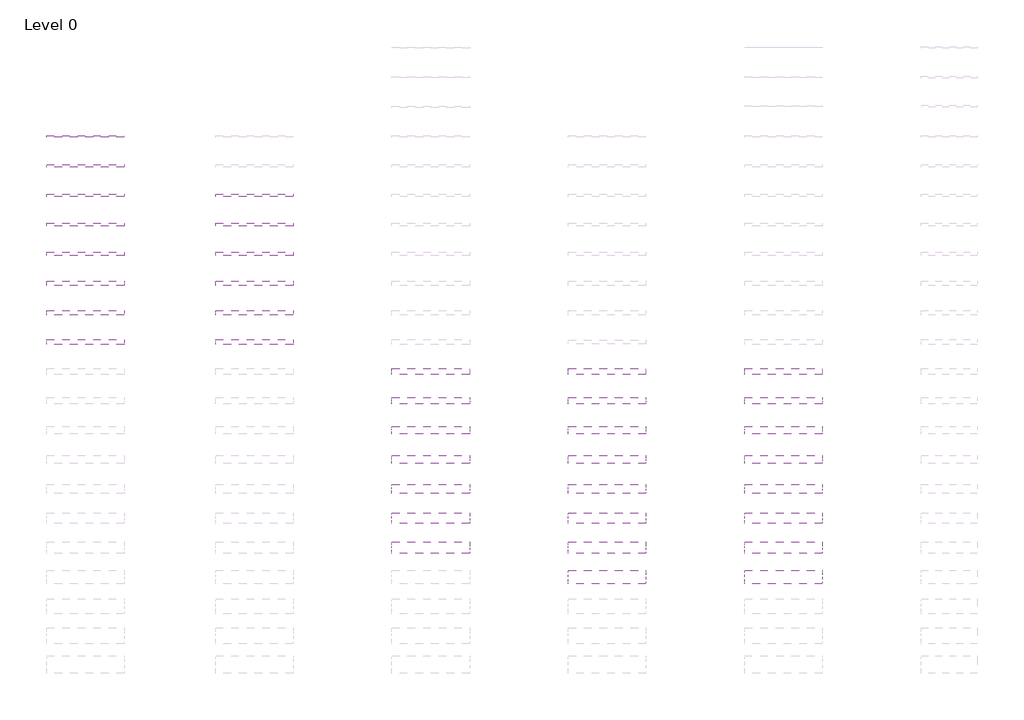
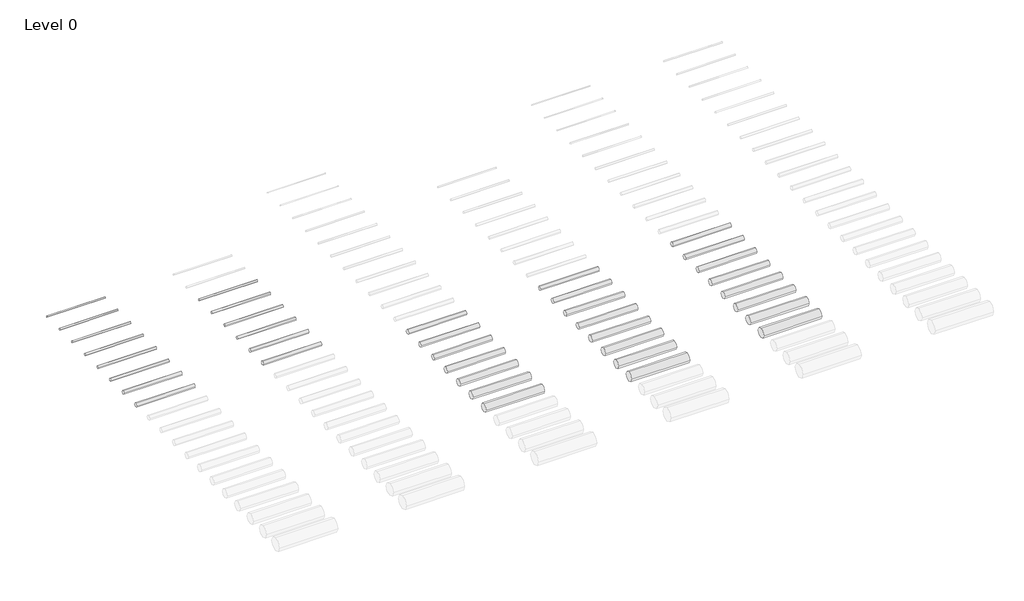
# One storey, part 2 of 4: 37 pipe segments.
"""IFC4 building model written with IfcOpenShell, lengths in millimetres."""

from ifc_helpers import new_model, si_unit, point, frame, frame_2d, origin, place, context, project, spatial, circle_curve, trimmed, segment, composite_curve, outline, extrude, element, save

model = new_model("IFC4")

# Units and contexts
model_context = context("Model", 3, world=origin())
ifc_project = project(units=[si_unit("LENGTHUNIT", "METRE", prefix="MILLI")], contexts=[model_context])

# Site, building, storey
site = spatial("IfcSite", under=ifc_project)
building = spatial("IfcBuilding", under=site)
storey = spatial("IfcBuildingStorey", under=building, Name="Level 0", Elevation=0.0)

# Pipe segments
placement = place(None, origin())
element("IfcPipeSegment", 1, ObjectType="Plumbing_Pipes_Pexgol_Cross-Linked-Polyethylene_Class-10", at=placement, inside=storey, context=model_context, shape_type="SweptSolid", body=[
    extrude(outline(composite_curve([segment(trimmed(circle_curve(frame_2d((-8091.7457436, 2750.0)), 31.5), [point((-8123.2457436, 2750.0))], [point((-8091.7457436, 2781.5))], False, "CARTESIAN"), True, "CONTINUOUS"), segment(trimmed(circle_curve(frame_2d((-8091.7457436, 2750.0)), 31.5), [point((-8091.7457436, 2781.5))], [point((-8060.2457436, 2750.0))], False, "CARTESIAN"), True, "CONTINUOUS"), segment(trimmed(circle_curve(frame_2d((-8091.7457436, 2750.0)), 31.5), [point((-8060.2457436, 2750.0))], [point((-8091.7457436, 2718.5))], False, "CARTESIAN"), True, "CONTINUOUS"), segment(trimmed(circle_curve(frame_2d((-8091.7457436, 2750.0)), 31.5), [point((-8091.7457436, 2718.5))], [point((-8123.2457436, 2750.0))], False, "CARTESIAN"), True, "CONTINUOUS")], self_intersect=False)), frame((5406.3346274, 0.0, 0.0), z_axis=(1.0, 0.0, 0.0), x_axis=(0.0, 1.0, 0.0)), (0.0, 0.0, 1.0), 2640.0),
])
element("IfcPipeSegment", 2, ObjectType="Plumbing_Pipes_Pexgol_Cross-Linked-Polyethylene_Class-10", at=placement, inside=storey, context=model_context, shape_type="SweptSolid", body=[
    extrude(outline(composite_curve([segment(trimmed(circle_curve(frame_2d((-9091.7457436, 2750.0)), 37.5), [point((-9129.2457436, 2750.0))], [point((-9091.7457436, 2787.5))], False, "CARTESIAN"), True, "CONTINUOUS"), segment(trimmed(circle_curve(frame_2d((-9091.7457436, 2750.0)), 37.5), [point((-9091.7457436, 2787.5))], [point((-9054.2457436, 2750.0))], False, "CARTESIAN"), True, "CONTINUOUS"), segment(trimmed(circle_curve(frame_2d((-9091.7457436, 2750.0)), 37.5), [point((-9054.2457436, 2750.0))], [point((-9091.7457436, 2712.5))], False, "CARTESIAN"), True, "CONTINUOUS"), segment(trimmed(circle_curve(frame_2d((-9091.7457436, 2750.0)), 37.5), [point((-9091.7457436, 2712.5))], [point((-9129.2457436, 2750.0))], False, "CARTESIAN"), True, "CONTINUOUS")], self_intersect=False)), frame((5406.3346274, 0.0, 0.0), z_axis=(1.0, 0.0, 0.0), x_axis=(0.0, 1.0, 0.0)), (0.0, 0.0, 1.0), 2640.0),
])
element("IfcPipeSegment", 3, ObjectType="Plumbing_Pipes_Pexgol_Cross-Linked-Polyethylene_Class-10", at=placement, inside=storey, context=model_context, shape_type="SweptSolid", body=[
    extrude(outline(composite_curve([segment(trimmed(circle_curve(frame_2d((-10091.7457436, 2750.0)), 45.0), [point((-10136.7457436, 2750.0))], [point((-10091.7457436, 2795.0))], False, "CARTESIAN"), True, "CONTINUOUS"), segment(trimmed(circle_curve(frame_2d((-10091.7457436, 2750.0)), 45.0), [point((-10091.7457436, 2795.0))], [point((-10046.7457436, 2750.0))], False, "CARTESIAN"), True, "CONTINUOUS"), segment(trimmed(circle_curve(frame_2d((-10091.7457436, 2750.0)), 45.0), [point((-10046.7457436, 2750.0))], [point((-10091.7457436, 2705.0))], False, "CARTESIAN"), True, "CONTINUOUS"), segment(trimmed(circle_curve(frame_2d((-10091.7457436, 2750.0)), 45.0), [point((-10091.7457436, 2705.0))], [point((-10136.7457436, 2750.0))], False, "CARTESIAN"), True, "CONTINUOUS")], self_intersect=False)), frame((5406.3346274, 0.0, 0.0), z_axis=(1.0, 0.0, 0.0), x_axis=(0.0, 1.0, 0.0)), (0.0, 0.0, 1.0), 2640.0),
])
element("IfcPipeSegment", 4, ObjectType="Plumbing_Pipes_Pexgol_Cross-Linked-Polyethylene_Class-10", at=placement, inside=storey, context=model_context, shape_type="SweptSolid", body=[
    extrude(outline(composite_curve([segment(trimmed(circle_curve(frame_2d((-11091.7457436, 2750.0)), 55.0), [point((-11146.7457436, 2750.0))], [point((-11091.7457436, 2805.0))], False, "CARTESIAN"), True, "CONTINUOUS"), segment(trimmed(circle_curve(frame_2d((-11091.7457436, 2750.0)), 55.0), [point((-11091.7457436, 2805.0))], [point((-11036.7457436, 2750.0))], False, "CARTESIAN"), True, "CONTINUOUS"), segment(trimmed(circle_curve(frame_2d((-11091.7457436, 2750.0)), 55.0), [point((-11036.7457436, 2750.0))], [point((-11091.7457436, 2695.0))], False, "CARTESIAN"), True, "CONTINUOUS"), segment(trimmed(circle_curve(frame_2d((-11091.7457436, 2750.0)), 55.0), [point((-11091.7457436, 2695.0))], [point((-11146.7457436, 2750.0))], False, "CARTESIAN"), True, "CONTINUOUS")], self_intersect=False)), frame((5406.3346274, 0.0, 0.0), z_axis=(1.0, 0.0, 0.0), x_axis=(0.0, 1.0, 0.0)), (0.0, 0.0, 1.0), 2640.0),
])
element("IfcPipeSegment", 5, ObjectType="Plumbing_Pipes_Pexgol_Cross-Linked-Polyethylene_Class-10", at=placement, inside=storey, context=model_context, shape_type="SweptSolid", body=[
    extrude(outline(composite_curve([segment(trimmed(circle_curve(frame_2d((-12091.7457436, 2750.0)), 62.5), [point((-12154.2457436, 2750.0))], [point((-12091.7457436, 2812.5))], False, "CARTESIAN"), True, "CONTINUOUS"), segment(trimmed(circle_curve(frame_2d((-12091.7457436, 2750.0)), 62.5), [point((-12091.7457436, 2812.5))], [point((-12029.2457436, 2750.0))], False, "CARTESIAN"), True, "CONTINUOUS"), segment(trimmed(circle_curve(frame_2d((-12091.7457436, 2750.0)), 62.5), [point((-12029.2457436, 2750.0))], [point((-12091.7457436, 2687.5))], False, "CARTESIAN"), True, "CONTINUOUS"), segment(trimmed(circle_curve(frame_2d((-12091.7457436, 2750.0)), 62.5), [point((-12091.7457436, 2687.5))], [point((-12154.2457436, 2750.0))], False, "CARTESIAN"), True, "CONTINUOUS")], self_intersect=False)), frame((5406.3346274, 0.0, 0.0), z_axis=(1.0, 0.0, 0.0), x_axis=(0.0, 1.0, 0.0)), (0.0, 0.0, 1.0), 2640.0),
])
element("IfcPipeSegment", 6, ObjectType="Plumbing_Pipes_Pexgol_Cross-Linked-Polyethylene_Class-10", at=placement, inside=storey, context=model_context, shape_type="SweptSolid", body=[
    extrude(outline(composite_curve([segment(trimmed(circle_curve(frame_2d((-13091.7457436, 2750.0)), 70.0), [point((-13161.7457436, 2750.0))], [point((-13091.7457436, 2820.0))], False, "CARTESIAN"), True, "CONTINUOUS"), segment(trimmed(circle_curve(frame_2d((-13091.7457436, 2750.0)), 70.0), [point((-13091.7457436, 2820.0))], [point((-13021.7457436, 2750.0))], False, "CARTESIAN"), True, "CONTINUOUS"), segment(trimmed(circle_curve(frame_2d((-13091.7457436, 2750.0)), 70.0), [point((-13021.7457436, 2750.0))], [point((-13091.7457436, 2680.0))], False, "CARTESIAN"), True, "CONTINUOUS"), segment(trimmed(circle_curve(frame_2d((-13091.7457436, 2750.0)), 70.0), [point((-13091.7457436, 2680.0))], [point((-13161.7457436, 2750.0))], False, "CARTESIAN"), True, "CONTINUOUS")], self_intersect=False)), frame((5406.3346274, 0.0, 0.0), z_axis=(1.0, 0.0, 0.0), x_axis=(0.0, 1.0, 0.0)), (0.0, 0.0, 1.0), 2640.0),
])
element("IfcPipeSegment", 7, ObjectType="Plumbing_Pipes_Pexgol_Cross-Linked-Polyethylene_Class-10", at=placement, inside=storey, context=model_context, shape_type="SweptSolid", body=[
    extrude(outline(composite_curve([segment(trimmed(circle_curve(frame_2d((-14091.7457436, 2750.0)), 80.0), [point((-14171.7457436, 2750.0))], [point((-14091.7457436, 2830.0))], False, "CARTESIAN"), True, "CONTINUOUS"), segment(trimmed(circle_curve(frame_2d((-14091.7457436, 2750.0)), 80.0), [point((-14091.7457436, 2830.0))], [point((-14011.7457436, 2750.0))], False, "CARTESIAN"), True, "CONTINUOUS"), segment(trimmed(circle_curve(frame_2d((-14091.7457436, 2750.0)), 80.0), [point((-14011.7457436, 2750.0))], [point((-14091.7457436, 2670.0))], False, "CARTESIAN"), True, "CONTINUOUS"), segment(trimmed(circle_curve(frame_2d((-14091.7457436, 2750.0)), 80.0), [point((-14091.7457436, 2670.0))], [point((-14171.7457436, 2750.0))], False, "CARTESIAN"), True, "CONTINUOUS")], self_intersect=False)), frame((5406.3346274, 0.0, 0.0), z_axis=(1.0, 0.0, 0.0), x_axis=(0.0, 1.0, 0.0)), (0.0, 0.0, 1.0), 2640.0),
])
element("IfcPipeSegment", 8, ObjectType="Plumbing_Pipes_Pexgol_Cross-Linked-Polyethylene_Class-10", at=placement, inside=storey, context=model_context, shape_type="SweptSolid", body=[
    extrude(outline(composite_curve([segment(trimmed(circle_curve(frame_2d((-15091.7457436, 2750.0)), 90.0), [point((-15181.7457436, 2750.0))], [point((-15091.7457436, 2840.0))], False, "CARTESIAN"), True, "CONTINUOUS"), segment(trimmed(circle_curve(frame_2d((-15091.7457436, 2750.0)), 90.0), [point((-15091.7457436, 2840.0))], [point((-15001.7457436, 2750.0))], False, "CARTESIAN"), True, "CONTINUOUS"), segment(trimmed(circle_curve(frame_2d((-15091.7457436, 2750.0)), 90.0), [point((-15001.7457436, 2750.0))], [point((-15091.7457436, 2660.0))], False, "CARTESIAN"), True, "CONTINUOUS"), segment(trimmed(circle_curve(frame_2d((-15091.7457436, 2750.0)), 90.0), [point((-15091.7457436, 2660.0))], [point((-15181.7457436, 2750.0))], False, "CARTESIAN"), True, "CONTINUOUS")], self_intersect=False)), frame((5406.3346274, 0.0, 0.0), z_axis=(1.0, 0.0, 0.0), x_axis=(0.0, 1.0, 0.0)), (0.0, 0.0, 1.0), 2640.0),
])
element("IfcPipeSegment", 9, ObjectType="Plumbing_Pipes_Pexgol_Cross-Linked-Polyethylene_Class-12", at=placement, inside=storey, context=model_context, shape_type="SweptSolid", body=[
    extrude(outline(composite_curve([segment(trimmed(circle_curve(frame_2d((-10091.7457436, 2750.0)), 45.0), [point((-10136.7457436, 2750.0))], [point((-10091.7457436, 2795.0))], False, "CARTESIAN"), True, "CONTINUOUS"), segment(trimmed(circle_curve(frame_2d((-10091.7457436, 2750.0)), 45.0), [point((-10091.7457436, 2795.0))], [point((-10046.7457436, 2750.0))], False, "CARTESIAN"), True, "CONTINUOUS"), segment(trimmed(circle_curve(frame_2d((-10091.7457436, 2750.0)), 45.0), [point((-10046.7457436, 2750.0))], [point((-10091.7457436, 2705.0))], False, "CARTESIAN"), True, "CONTINUOUS"), segment(trimmed(circle_curve(frame_2d((-10091.7457436, 2750.0)), 45.0), [point((-10091.7457436, 2705.0))], [point((-10136.7457436, 2750.0))], False, "CARTESIAN"), True, "CONTINUOUS")], self_intersect=False)), frame((11158.0416447, 0.0, 0.0), z_axis=(1.0, 0.0, 0.0), x_axis=(0.0, 1.0, 0.0)), (0.0, 0.0, 1.0), 2640.0),
])
element("IfcPipeSegment", 10, ObjectType="Plumbing_Pipes_Pexgol_Cross-Linked-Polyethylene_Class-12", at=placement, inside=storey, context=model_context, shape_type="SweptSolid", body=[
    extrude(outline(composite_curve([segment(trimmed(circle_curve(frame_2d((-11091.7457436, 2750.0)), 55.0), [point((-11146.7457436, 2750.0))], [point((-11091.7457436, 2805.0))], False, "CARTESIAN"), True, "CONTINUOUS"), segment(trimmed(circle_curve(frame_2d((-11091.7457436, 2750.0)), 55.0), [point((-11091.7457436, 2805.0))], [point((-11036.7457436, 2750.0))], False, "CARTESIAN"), True, "CONTINUOUS"), segment(trimmed(circle_curve(frame_2d((-11091.7457436, 2750.0)), 55.0), [point((-11036.7457436, 2750.0))], [point((-11091.7457436, 2695.0))], False, "CARTESIAN"), True, "CONTINUOUS"), segment(trimmed(circle_curve(frame_2d((-11091.7457436, 2750.0)), 55.0), [point((-11091.7457436, 2695.0))], [point((-11146.7457436, 2750.0))], False, "CARTESIAN"), True, "CONTINUOUS")], self_intersect=False)), frame((11158.0416447, 0.0, 0.0), z_axis=(1.0, 0.0, 0.0), x_axis=(0.0, 1.0, 0.0)), (0.0, 0.0, 1.0), 2640.0),
])
element("IfcPipeSegment", 11, ObjectType="Plumbing_Pipes_Pexgol_Cross-Linked-Polyethylene_Class-12", at=placement, inside=storey, context=model_context, shape_type="SweptSolid", body=[
    extrude(outline(composite_curve([segment(trimmed(circle_curve(frame_2d((-12091.7457436, 2750.0)), 62.5), [point((-12154.2457436, 2750.0))], [point((-12091.7457436, 2812.5))], False, "CARTESIAN"), True, "CONTINUOUS"), segment(trimmed(circle_curve(frame_2d((-12091.7457436, 2750.0)), 62.5), [point((-12091.7457436, 2812.5))], [point((-12029.2457436, 2750.0))], False, "CARTESIAN"), True, "CONTINUOUS"), segment(trimmed(circle_curve(frame_2d((-12091.7457436, 2750.0)), 62.5), [point((-12029.2457436, 2750.0))], [point((-12091.7457436, 2687.5))], False, "CARTESIAN"), True, "CONTINUOUS"), segment(trimmed(circle_curve(frame_2d((-12091.7457436, 2750.0)), 62.5), [point((-12091.7457436, 2687.5))], [point((-12154.2457436, 2750.0))], False, "CARTESIAN"), True, "CONTINUOUS")], self_intersect=False)), frame((11158.0416447, 0.0, 0.0), z_axis=(1.0, 0.0, 0.0), x_axis=(0.0, 1.0, 0.0)), (0.0, 0.0, 1.0), 2640.0),
])
element("IfcPipeSegment", 12, ObjectType="Plumbing_Pipes_Pexgol_Cross-Linked-Polyethylene_Class-12", at=placement, inside=storey, context=model_context, shape_type="SweptSolid", body=[
    extrude(outline(composite_curve([segment(trimmed(circle_curve(frame_2d((-13091.7457436, 2750.0)), 70.0), [point((-13161.7457436, 2750.0))], [point((-13091.7457436, 2820.0))], False, "CARTESIAN"), True, "CONTINUOUS"), segment(trimmed(circle_curve(frame_2d((-13091.7457436, 2750.0)), 70.0), [point((-13091.7457436, 2820.0))], [point((-13021.7457436, 2750.0))], False, "CARTESIAN"), True, "CONTINUOUS"), segment(trimmed(circle_curve(frame_2d((-13091.7457436, 2750.0)), 70.0), [point((-13021.7457436, 2750.0))], [point((-13091.7457436, 2680.0))], False, "CARTESIAN"), True, "CONTINUOUS"), segment(trimmed(circle_curve(frame_2d((-13091.7457436, 2750.0)), 70.0), [point((-13091.7457436, 2680.0))], [point((-13161.7457436, 2750.0))], False, "CARTESIAN"), True, "CONTINUOUS")], self_intersect=False)), frame((11158.0416447, 0.0, 0.0), z_axis=(1.0, 0.0, 0.0), x_axis=(0.0, 1.0, 0.0)), (0.0, 0.0, 1.0), 2640.0),
])
element("IfcPipeSegment", 13, ObjectType="Plumbing_Pipes_Pexgol_Cross-Linked-Polyethylene_Class-12", at=placement, inside=storey, context=model_context, shape_type="SweptSolid", body=[
    extrude(outline(composite_curve([segment(trimmed(circle_curve(frame_2d((-14091.7457436, 2750.0)), 80.0), [point((-14171.7457436, 2750.0))], [point((-14091.7457436, 2830.0))], False, "CARTESIAN"), True, "CONTINUOUS"), segment(trimmed(circle_curve(frame_2d((-14091.7457436, 2750.0)), 80.0), [point((-14091.7457436, 2830.0))], [point((-14011.7457436, 2750.0))], False, "CARTESIAN"), True, "CONTINUOUS"), segment(trimmed(circle_curve(frame_2d((-14091.7457436, 2750.0)), 80.0), [point((-14011.7457436, 2750.0))], [point((-14091.7457436, 2670.0))], False, "CARTESIAN"), True, "CONTINUOUS"), segment(trimmed(circle_curve(frame_2d((-14091.7457436, 2750.0)), 80.0), [point((-14091.7457436, 2670.0))], [point((-14171.7457436, 2750.0))], False, "CARTESIAN"), True, "CONTINUOUS")], self_intersect=False)), frame((11158.0416447, 0.0, 0.0), z_axis=(1.0, 0.0, 0.0), x_axis=(0.0, 1.0, 0.0)), (0.0, 0.0, 1.0), 2640.0),
])
element("IfcPipeSegment", 14, ObjectType="Plumbing_Pipes_Pexgol_Cross-Linked-Polyethylene_Class-12", at=placement, inside=storey, context=model_context, shape_type="SweptSolid", body=[
    extrude(outline(composite_curve([segment(trimmed(circle_curve(frame_2d((-15091.7457436, 2750.0)), 90.0), [point((-15181.7457436, 2750.0))], [point((-15091.7457436, 2840.0))], False, "CARTESIAN"), True, "CONTINUOUS"), segment(trimmed(circle_curve(frame_2d((-15091.7457436, 2750.0)), 90.0), [point((-15091.7457436, 2840.0))], [point((-15001.7457436, 2750.0))], False, "CARTESIAN"), True, "CONTINUOUS"), segment(trimmed(circle_curve(frame_2d((-15091.7457436, 2750.0)), 90.0), [point((-15001.7457436, 2750.0))], [point((-15091.7457436, 2660.0))], False, "CARTESIAN"), True, "CONTINUOUS"), segment(trimmed(circle_curve(frame_2d((-15091.7457436, 2750.0)), 90.0), [point((-15091.7457436, 2660.0))], [point((-15181.7457436, 2750.0))], False, "CARTESIAN"), True, "CONTINUOUS")], self_intersect=False)), frame((11158.0416447, 0.0, 0.0), z_axis=(1.0, 0.0, 0.0), x_axis=(0.0, 1.0, 0.0)), (0.0, 0.0, 1.0), 2640.0),
])
element("IfcPipeSegment", 15, ObjectType="Plumbing_Pipes_Pexgol_Cross-Linked-Polyethylene_Class-15", at=placement, inside=storey, context=model_context, shape_type="SweptSolid", body=[
    extrude(outline(composite_curve([segment(trimmed(circle_curve(frame_2d((-16091.7457436, 2750.0)), 100.0), [point((-16191.7457436, 2750.0))], [point((-16091.7457436, 2850.0))], False, "CARTESIAN"), True, "CONTINUOUS"), segment(trimmed(circle_curve(frame_2d((-16091.7457436, 2750.0)), 100.0), [point((-16091.7457436, 2850.0))], [point((-15991.7457436, 2750.0))], False, "CARTESIAN"), True, "CONTINUOUS"), segment(trimmed(circle_curve(frame_2d((-16091.7457436, 2750.0)), 100.0), [point((-15991.7457436, 2750.0))], [point((-16091.7457436, 2650.0))], False, "CARTESIAN"), True, "CONTINUOUS"), segment(trimmed(circle_curve(frame_2d((-16091.7457436, 2750.0)), 100.0), [point((-16091.7457436, 2650.0))], [point((-16191.7457436, 2750.0))], False, "CARTESIAN"), True, "CONTINUOUS")], self_intersect=False)), frame((17158.0416447, 0.0, 0.0), z_axis=(1.0, 0.0, 0.0), x_axis=(0.0, 1.0, 0.0)), (0.0, 0.0, 1.0), 2640.0),
])
element("IfcPipeSegment", 16, ObjectType="Plumbing_Pipes_Pexgol_Cross-Linked-Polyethylene_Class-15", at=placement, inside=storey, context=model_context, shape_type="SweptSolid", body=[
    extrude(outline(composite_curve([segment(trimmed(circle_curve(frame_2d((-17091.7457436, 2750.0)), 112.5), [point((-17204.2457436, 2750.0))], [point((-17091.7457436, 2862.5))], False, "CARTESIAN"), True, "CONTINUOUS"), segment(trimmed(circle_curve(frame_2d((-17091.7457436, 2750.0)), 112.5), [point((-17091.7457436, 2862.5))], [point((-16979.2457436, 2750.0))], False, "CARTESIAN"), True, "CONTINUOUS"), segment(trimmed(circle_curve(frame_2d((-17091.7457436, 2750.0)), 112.5), [point((-16979.2457436, 2750.0))], [point((-17091.7457436, 2637.5))], False, "CARTESIAN"), True, "CONTINUOUS"), segment(trimmed(circle_curve(frame_2d((-17091.7457436, 2750.0)), 112.5), [point((-17091.7457436, 2637.5))], [point((-17204.2457436, 2750.0))], False, "CARTESIAN"), True, "CONTINUOUS")], self_intersect=False)), frame((17158.0416447, 0.0, 0.0), z_axis=(1.0, 0.0, 0.0), x_axis=(0.0, 1.0, 0.0)), (0.0, 0.0, 1.0), 2640.0),
])
element("IfcPipeSegment", 17, ObjectType="Plumbing_Pipes_Pexgol_Cross-Linked-Polyethylene_Class-15", at=placement, inside=storey, context=model_context, shape_type="SweptSolid", body=[
    extrude(outline(composite_curve([segment(trimmed(circle_curve(frame_2d((-18091.7457436, 2750.0)), 125.0), [point((-18216.7457436, 2750.0))], [point((-18091.7457436, 2875.0))], False, "CARTESIAN"), True, "CONTINUOUS"), segment(trimmed(circle_curve(frame_2d((-18091.7457436, 2750.0)), 125.0), [point((-18091.7457436, 2875.0))], [point((-17966.7457436, 2750.0))], False, "CARTESIAN"), True, "CONTINUOUS"), segment(trimmed(circle_curve(frame_2d((-18091.7457436, 2750.0)), 125.0), [point((-17966.7457436, 2750.0))], [point((-18091.7457436, 2625.0))], False, "CARTESIAN"), True, "CONTINUOUS"), segment(trimmed(circle_curve(frame_2d((-18091.7457436, 2750.0)), 125.0), [point((-18091.7457436, 2625.0))], [point((-18216.7457436, 2750.0))], False, "CARTESIAN"), True, "CONTINUOUS")], self_intersect=False)), frame((17158.0416447, 0.0, 0.0), z_axis=(1.0, 0.0, 0.0), x_axis=(0.0, 1.0, 0.0)), (0.0, 0.0, 1.0), 2640.0),
])
element("IfcPipeSegment", 18, ObjectType="Plumbing_Pipes_Pexgol_Cross-Linked-Polyethylene_Class-15", at=placement, inside=storey, context=model_context, shape_type="SweptSolid", body=[
    extrude(outline(composite_curve([segment(trimmed(circle_curve(frame_2d((-19091.7457436, 2750.0)), 140.0), [point((-19231.7457436, 2750.0))], [point((-19091.7457436, 2890.0))], False, "CARTESIAN"), True, "CONTINUOUS"), segment(trimmed(circle_curve(frame_2d((-19091.7457436, 2750.0)), 140.0), [point((-19091.7457436, 2890.0))], [point((-18951.7457436, 2750.0))], False, "CARTESIAN"), True, "CONTINUOUS"), segment(trimmed(circle_curve(frame_2d((-19091.7457436, 2750.0)), 140.0), [point((-18951.7457436, 2750.0))], [point((-19091.7457436, 2610.0))], False, "CARTESIAN"), True, "CONTINUOUS"), segment(trimmed(circle_curve(frame_2d((-19091.7457436, 2750.0)), 140.0), [point((-19091.7457436, 2610.0))], [point((-19231.7457436, 2750.0))], False, "CARTESIAN"), True, "CONTINUOUS")], self_intersect=False)), frame((17158.0416447, 0.0, 0.0), z_axis=(1.0, 0.0, 0.0), x_axis=(0.0, 1.0, 0.0)), (0.0, 0.0, 1.0), 2640.0),
])
element("IfcPipeSegment", 19, ObjectType="Plumbing_Pipes_Pexgol_Cross-Linked-Polyethylene_Class-15", at=placement, inside=storey, context=model_context, shape_type="SweptSolid", body=[
    extrude(outline(composite_curve([segment(trimmed(circle_curve(frame_2d((-20091.7457436, 2750.0)), 157.5), [point((-20249.2457436, 2750.0))], [point((-20091.7457436, 2907.5))], False, "CARTESIAN"), True, "CONTINUOUS"), segment(trimmed(circle_curve(frame_2d((-20091.7457436, 2750.0)), 157.5), [point((-20091.7457436, 2907.5))], [point((-19934.2457436, 2750.0))], False, "CARTESIAN"), True, "CONTINUOUS"), segment(trimmed(circle_curve(frame_2d((-20091.7457436, 2750.0)), 157.5), [point((-19934.2457436, 2750.0))], [point((-20091.7457436, 2592.5))], False, "CARTESIAN"), True, "CONTINUOUS"), segment(trimmed(circle_curve(frame_2d((-20091.7457436, 2750.0)), 157.5), [point((-20091.7457436, 2592.5))], [point((-20249.2457436, 2750.0))], False, "CARTESIAN"), True, "CONTINUOUS")], self_intersect=False)), frame((17158.0416447, 0.0, 0.0), z_axis=(1.0, 0.0, 0.0), x_axis=(0.0, 1.0, 0.0)), (0.0, 0.0, 1.0), 2640.0),
])
element("IfcPipeSegment", 20, ObjectType="Plumbing_Pipes_Pexgol_Cross-Linked-Polyethylene_Class-15", at=placement, inside=storey, context=model_context, shape_type="SweptSolid", body=[
    extrude(outline(composite_curve([segment(trimmed(circle_curve(frame_2d((-21091.7457436, 2750.0)), 177.5), [point((-21269.2457436, 2750.0))], [point((-21091.7457436, 2927.5))], False, "CARTESIAN"), True, "CONTINUOUS"), segment(trimmed(circle_curve(frame_2d((-21091.7457436, 2750.0)), 177.5), [point((-21091.7457436, 2927.5))], [point((-20914.2457436, 2750.0))], False, "CARTESIAN"), True, "CONTINUOUS"), segment(trimmed(circle_curve(frame_2d((-21091.7457436, 2750.0)), 177.5), [point((-20914.2457436, 2750.0))], [point((-21091.7457436, 2572.5))], False, "CARTESIAN"), True, "CONTINUOUS"), segment(trimmed(circle_curve(frame_2d((-21091.7457436, 2750.0)), 177.5), [point((-21091.7457436, 2572.5))], [point((-21269.2457436, 2750.0))], False, "CARTESIAN"), True, "CONTINUOUS")], self_intersect=False)), frame((17158.0416447, 0.0, 0.0), z_axis=(1.0, 0.0, 0.0), x_axis=(0.0, 1.0, 0.0)), (0.0, 0.0, 1.0), 2640.0),
])
element("IfcPipeSegment", 21, ObjectType="Plumbing_Pipes_Pexgol_Cross-Linked-Polyethylene_Class-15", at=placement, inside=storey, context=model_context, shape_type="SweptSolid", body=[
    extrude(outline(composite_curve([segment(trimmed(circle_curve(frame_2d((-22091.7457436, 2750.0)), 200.0), [point((-22291.7457436, 2750.0))], [point((-22091.7457436, 2950.0))], False, "CARTESIAN"), True, "CONTINUOUS"), segment(trimmed(circle_curve(frame_2d((-22091.7457436, 2750.0)), 200.0), [point((-22091.7457436, 2950.0))], [point((-21891.7457436, 2750.0))], False, "CARTESIAN"), True, "CONTINUOUS"), segment(trimmed(circle_curve(frame_2d((-22091.7457436, 2750.0)), 200.0), [point((-21891.7457436, 2750.0))], [point((-22091.7457436, 2550.0))], False, "CARTESIAN"), True, "CONTINUOUS"), segment(trimmed(circle_curve(frame_2d((-22091.7457436, 2750.0)), 200.0), [point((-22091.7457436, 2550.0))], [point((-22291.7457436, 2750.0))], False, "CARTESIAN"), True, "CONTINUOUS")], self_intersect=False)), frame((17158.0416447, 0.0, 0.0), z_axis=(1.0, 0.0, 0.0), x_axis=(0.0, 1.0, 0.0)), (0.0, 0.0, 1.0), 2640.0),
])
element("IfcPipeSegment", 22, ObjectType="Plumbing_Pipes_Pexgol_Cross-Linked-Polyethylene_Class-19", at=placement, inside=storey, context=model_context, shape_type="SweptSolid", body=[
    extrude(outline(composite_curve([segment(trimmed(circle_curve(frame_2d((-16091.7457436, 2750.0)), 100.0), [point((-16191.7457436, 2750.0))], [point((-16091.7457436, 2850.0))], False, "CARTESIAN"), True, "CONTINUOUS"), segment(trimmed(circle_curve(frame_2d((-16091.7457436, 2750.0)), 100.0), [point((-16091.7457436, 2850.0))], [point((-15991.7457436, 2750.0))], False, "CARTESIAN"), True, "CONTINUOUS"), segment(trimmed(circle_curve(frame_2d((-16091.7457436, 2750.0)), 100.0), [point((-15991.7457436, 2750.0))], [point((-16091.7457436, 2650.0))], False, "CARTESIAN"), True, "CONTINUOUS"), segment(trimmed(circle_curve(frame_2d((-16091.7457436, 2750.0)), 100.0), [point((-16091.7457436, 2650.0))], [point((-16191.7457436, 2750.0))], False, "CARTESIAN"), True, "CONTINUOUS")], self_intersect=False)), frame((23158.0416447, 0.0, 0.0), z_axis=(1.0, 0.0, 0.0), x_axis=(0.0, 1.0, 0.0)), (0.0, 0.0, 1.0), 2640.0),
])
element("IfcPipeSegment", 23, ObjectType="Plumbing_Pipes_Pexgol_Cross-Linked-Polyethylene_Class-19", at=placement, inside=storey, context=model_context, shape_type="SweptSolid", body=[
    extrude(outline(composite_curve([segment(trimmed(circle_curve(frame_2d((-17091.7457436, 2750.0)), 112.5), [point((-17204.2457436, 2750.0))], [point((-17091.7457436, 2862.5))], False, "CARTESIAN"), True, "CONTINUOUS"), segment(trimmed(circle_curve(frame_2d((-17091.7457436, 2750.0)), 112.5), [point((-17091.7457436, 2862.5))], [point((-16979.2457436, 2750.0))], False, "CARTESIAN"), True, "CONTINUOUS"), segment(trimmed(circle_curve(frame_2d((-17091.7457436, 2750.0)), 112.5), [point((-16979.2457436, 2750.0))], [point((-17091.7457436, 2637.5))], False, "CARTESIAN"), True, "CONTINUOUS"), segment(trimmed(circle_curve(frame_2d((-17091.7457436, 2750.0)), 112.5), [point((-17091.7457436, 2637.5))], [point((-17204.2457436, 2750.0))], False, "CARTESIAN"), True, "CONTINUOUS")], self_intersect=False)), frame((23158.0416447, 0.0, 0.0), z_axis=(1.0, 0.0, 0.0), x_axis=(0.0, 1.0, 0.0)), (0.0, 0.0, 1.0), 2640.0),
])
element("IfcPipeSegment", 24, ObjectType="Plumbing_Pipes_Pexgol_Cross-Linked-Polyethylene_Class-19", at=placement, inside=storey, context=model_context, shape_type="SweptSolid", body=[
    extrude(outline(composite_curve([segment(trimmed(circle_curve(frame_2d((-18091.7457436, 2750.0)), 125.0), [point((-18216.7457436, 2750.0))], [point((-18091.7457436, 2875.0))], False, "CARTESIAN"), True, "CONTINUOUS"), segment(trimmed(circle_curve(frame_2d((-18091.7457436, 2750.0)), 125.0), [point((-18091.7457436, 2875.0))], [point((-17966.7457436, 2750.0))], False, "CARTESIAN"), True, "CONTINUOUS"), segment(trimmed(circle_curve(frame_2d((-18091.7457436, 2750.0)), 125.0), [point((-17966.7457436, 2750.0))], [point((-18091.7457436, 2625.0))], False, "CARTESIAN"), True, "CONTINUOUS"), segment(trimmed(circle_curve(frame_2d((-18091.7457436, 2750.0)), 125.0), [point((-18091.7457436, 2625.0))], [point((-18216.7457436, 2750.0))], False, "CARTESIAN"), True, "CONTINUOUS")], self_intersect=False)), frame((23158.0416447, 0.0, 0.0), z_axis=(1.0, 0.0, 0.0), x_axis=(0.0, 1.0, 0.0)), (0.0, 0.0, 1.0), 2640.0),
])
element("IfcPipeSegment", 25, ObjectType="Plumbing_Pipes_Pexgol_Cross-Linked-Polyethylene_Class-19", at=placement, inside=storey, context=model_context, shape_type="SweptSolid", body=[
    extrude(outline(composite_curve([segment(trimmed(circle_curve(frame_2d((-19091.7457436, 2750.0)), 140.0), [point((-19231.7457436, 2750.0))], [point((-19091.7457436, 2890.0))], False, "CARTESIAN"), True, "CONTINUOUS"), segment(trimmed(circle_curve(frame_2d((-19091.7457436, 2750.0)), 140.0), [point((-19091.7457436, 2890.0))], [point((-18951.7457436, 2750.0))], False, "CARTESIAN"), True, "CONTINUOUS"), segment(trimmed(circle_curve(frame_2d((-19091.7457436, 2750.0)), 140.0), [point((-18951.7457436, 2750.0))], [point((-19091.7457436, 2610.0))], False, "CARTESIAN"), True, "CONTINUOUS"), segment(trimmed(circle_curve(frame_2d((-19091.7457436, 2750.0)), 140.0), [point((-19091.7457436, 2610.0))], [point((-19231.7457436, 2750.0))], False, "CARTESIAN"), True, "CONTINUOUS")], self_intersect=False)), frame((23158.0416447, 0.0, 0.0), z_axis=(1.0, 0.0, 0.0), x_axis=(0.0, 1.0, 0.0)), (0.0, 0.0, 1.0), 2640.0),
])
element("IfcPipeSegment", 26, ObjectType="Plumbing_Pipes_Pexgol_Cross-Linked-Polyethylene_Class-19", at=placement, inside=storey, context=model_context, shape_type="SweptSolid", body=[
    extrude(outline(composite_curve([segment(trimmed(circle_curve(frame_2d((-20091.7457436, 2750.0)), 157.5), [point((-20249.2457436, 2750.0))], [point((-20091.7457436, 2907.5))], False, "CARTESIAN"), True, "CONTINUOUS"), segment(trimmed(circle_curve(frame_2d((-20091.7457436, 2750.0)), 157.5), [point((-20091.7457436, 2907.5))], [point((-19934.2457436, 2750.0))], False, "CARTESIAN"), True, "CONTINUOUS"), segment(trimmed(circle_curve(frame_2d((-20091.7457436, 2750.0)), 157.5), [point((-19934.2457436, 2750.0))], [point((-20091.7457436, 2592.5))], False, "CARTESIAN"), True, "CONTINUOUS"), segment(trimmed(circle_curve(frame_2d((-20091.7457436, 2750.0)), 157.5), [point((-20091.7457436, 2592.5))], [point((-20249.2457436, 2750.0))], False, "CARTESIAN"), True, "CONTINUOUS")], self_intersect=False)), frame((23158.0416447, 0.0, 0.0), z_axis=(1.0, 0.0, 0.0), x_axis=(0.0, 1.0, 0.0)), (0.0, 0.0, 1.0), 2640.0),
])
element("IfcPipeSegment", 27, ObjectType="Plumbing_Pipes_Pexgol_Cross-Linked-Polyethylene_Class-19", at=placement, inside=storey, context=model_context, shape_type="SweptSolid", body=[
    extrude(outline(composite_curve([segment(trimmed(circle_curve(frame_2d((-21091.7457436, 2750.0)), 177.5), [point((-21269.2457436, 2750.0))], [point((-21091.7457436, 2927.5))], False, "CARTESIAN"), True, "CONTINUOUS"), segment(trimmed(circle_curve(frame_2d((-21091.7457436, 2750.0)), 177.5), [point((-21091.7457436, 2927.5))], [point((-20914.2457436, 2750.0))], False, "CARTESIAN"), True, "CONTINUOUS"), segment(trimmed(circle_curve(frame_2d((-21091.7457436, 2750.0)), 177.5), [point((-20914.2457436, 2750.0))], [point((-21091.7457436, 2572.5))], False, "CARTESIAN"), True, "CONTINUOUS"), segment(trimmed(circle_curve(frame_2d((-21091.7457436, 2750.0)), 177.5), [point((-21091.7457436, 2572.5))], [point((-21269.2457436, 2750.0))], False, "CARTESIAN"), True, "CONTINUOUS")], self_intersect=False)), frame((23158.0416447, 0.0, 0.0), z_axis=(1.0, 0.0, 0.0), x_axis=(0.0, 1.0, 0.0)), (0.0, 0.0, 1.0), 2640.0),
])
element("IfcPipeSegment", 28, ObjectType="Plumbing_Pipes_Pexgol_Cross-Linked-Polyethylene_Class-19", at=placement, inside=storey, context=model_context, shape_type="SweptSolid", body=[
    extrude(outline(composite_curve([segment(trimmed(circle_curve(frame_2d((-22091.7457436, 2750.0)), 200.0), [point((-22291.7457436, 2750.0))], [point((-22091.7457436, 2950.0))], False, "CARTESIAN"), True, "CONTINUOUS"), segment(trimmed(circle_curve(frame_2d((-22091.7457436, 2750.0)), 200.0), [point((-22091.7457436, 2950.0))], [point((-21891.7457436, 2750.0))], False, "CARTESIAN"), True, "CONTINUOUS"), segment(trimmed(circle_curve(frame_2d((-22091.7457436, 2750.0)), 200.0), [point((-21891.7457436, 2750.0))], [point((-22091.7457436, 2550.0))], False, "CARTESIAN"), True, "CONTINUOUS"), segment(trimmed(circle_curve(frame_2d((-22091.7457436, 2750.0)), 200.0), [point((-22091.7457436, 2550.0))], [point((-22291.7457436, 2750.0))], False, "CARTESIAN"), True, "CONTINUOUS")], self_intersect=False)), frame((23158.0416447, 0.0, 0.0), z_axis=(1.0, 0.0, 0.0), x_axis=(0.0, 1.0, 0.0)), (0.0, 0.0, 1.0), 2640.0),
])
element("IfcPipeSegment", 29, ObjectType="Plumbing_Pipes_Pexgol_Cross-Linked-Polyethylene_Class-19", at=placement, inside=storey, context=model_context, shape_type="SweptSolid", body=[
    extrude(outline(composite_curve([segment(trimmed(circle_curve(frame_2d((-23091.7457436, 2750.0)), 225.0), [point((-23316.7457436, 2750.0))], [point((-23091.7457436, 2975.0))], False, "CARTESIAN"), True, "CONTINUOUS"), segment(trimmed(circle_curve(frame_2d((-23091.7457436, 2750.0)), 225.0), [point((-23091.7457436, 2975.0))], [point((-22866.7457436, 2750.0))], False, "CARTESIAN"), True, "CONTINUOUS"), segment(trimmed(circle_curve(frame_2d((-23091.7457436, 2750.0)), 225.0), [point((-22866.7457436, 2750.0))], [point((-23091.7457436, 2525.0))], False, "CARTESIAN"), True, "CONTINUOUS"), segment(trimmed(circle_curve(frame_2d((-23091.7457436, 2750.0)), 225.0), [point((-23091.7457436, 2525.0))], [point((-23316.7457436, 2750.0))], False, "CARTESIAN"), True, "CONTINUOUS")], self_intersect=False)), frame((23158.0416447, 0.0, 0.0), z_axis=(1.0, 0.0, 0.0), x_axis=(0.0, 1.0, 0.0)), (0.0, 0.0, 1.0), 2640.0),
])
element("IfcPipeSegment", 30, ObjectType="Plumbing_Pipes_Pexgol_Cross-Linked-Polyethylene_Class-24", at=placement, inside=storey, context=model_context, shape_type="SweptSolid", body=[
    extrude(outline(composite_curve([segment(trimmed(circle_curve(frame_2d((-16091.7457436, 2750.0)), 100.0), [point((-16191.7457436, 2750.0))], [point((-16091.7457436, 2850.0))], False, "CARTESIAN"), True, "CONTINUOUS"), segment(trimmed(circle_curve(frame_2d((-16091.7457436, 2750.0)), 100.0), [point((-16091.7457436, 2850.0))], [point((-15991.7457436, 2750.0))], False, "CARTESIAN"), True, "CONTINUOUS"), segment(trimmed(circle_curve(frame_2d((-16091.7457436, 2750.0)), 100.0), [point((-15991.7457436, 2750.0))], [point((-16091.7457436, 2650.0))], False, "CARTESIAN"), True, "CONTINUOUS"), segment(trimmed(circle_curve(frame_2d((-16091.7457436, 2750.0)), 100.0), [point((-16091.7457436, 2650.0))], [point((-16191.7457436, 2750.0))], False, "CARTESIAN"), True, "CONTINUOUS")], self_intersect=False)), frame((29158.0416447, 0.0, 0.0), z_axis=(1.0, 0.0, 0.0), x_axis=(0.0, 1.0, 0.0)), (0.0, 0.0, 1.0), 2640.0),
])
element("IfcPipeSegment", 31, ObjectType="Plumbing_Pipes_Pexgol_Cross-Linked-Polyethylene_Class-24", at=placement, inside=storey, context=model_context, shape_type="SweptSolid", body=[
    extrude(outline(composite_curve([segment(trimmed(circle_curve(frame_2d((-17091.7457436, 2750.0)), 112.5), [point((-17204.2457436, 2750.0))], [point((-17091.7457436, 2862.5))], False, "CARTESIAN"), True, "CONTINUOUS"), segment(trimmed(circle_curve(frame_2d((-17091.7457436, 2750.0)), 112.5), [point((-17091.7457436, 2862.5))], [point((-16979.2457436, 2750.0))], False, "CARTESIAN"), True, "CONTINUOUS"), segment(trimmed(circle_curve(frame_2d((-17091.7457436, 2750.0)), 112.5), [point((-16979.2457436, 2750.0))], [point((-17091.7457436, 2637.5))], False, "CARTESIAN"), True, "CONTINUOUS"), segment(trimmed(circle_curve(frame_2d((-17091.7457436, 2750.0)), 112.5), [point((-17091.7457436, 2637.5))], [point((-17204.2457436, 2750.0))], False, "CARTESIAN"), True, "CONTINUOUS")], self_intersect=False)), frame((29158.0416447, 0.0, 0.0), z_axis=(1.0, 0.0, 0.0), x_axis=(0.0, 1.0, 0.0)), (0.0, 0.0, 1.0), 2640.0),
])
element("IfcPipeSegment", 32, ObjectType="Plumbing_Pipes_Pexgol_Cross-Linked-Polyethylene_Class-24", at=placement, inside=storey, context=model_context, shape_type="SweptSolid", body=[
    extrude(outline(composite_curve([segment(trimmed(circle_curve(frame_2d((-18091.7457436, 2750.0)), 125.0), [point((-18216.7457436, 2750.0))], [point((-18091.7457436, 2875.0))], False, "CARTESIAN"), True, "CONTINUOUS"), segment(trimmed(circle_curve(frame_2d((-18091.7457436, 2750.0)), 125.0), [point((-18091.7457436, 2875.0))], [point((-17966.7457436, 2750.0))], False, "CARTESIAN"), True, "CONTINUOUS"), segment(trimmed(circle_curve(frame_2d((-18091.7457436, 2750.0)), 125.0), [point((-17966.7457436, 2750.0))], [point((-18091.7457436, 2625.0))], False, "CARTESIAN"), True, "CONTINUOUS"), segment(trimmed(circle_curve(frame_2d((-18091.7457436, 2750.0)), 125.0), [point((-18091.7457436, 2625.0))], [point((-18216.7457436, 2750.0))], False, "CARTESIAN"), True, "CONTINUOUS")], self_intersect=False)), frame((29158.0416447, 0.0, 0.0), z_axis=(1.0, 0.0, 0.0), x_axis=(0.0, 1.0, 0.0)), (0.0, 0.0, 1.0), 2640.0),
])
element("IfcPipeSegment", 33, ObjectType="Plumbing_Pipes_Pexgol_Cross-Linked-Polyethylene_Class-24", at=placement, inside=storey, context=model_context, shape_type="SweptSolid", body=[
    extrude(outline(composite_curve([segment(trimmed(circle_curve(frame_2d((-19091.7457436, 2750.0)), 140.0), [point((-19231.7457436, 2750.0))], [point((-19091.7457436, 2890.0))], False, "CARTESIAN"), True, "CONTINUOUS"), segment(trimmed(circle_curve(frame_2d((-19091.7457436, 2750.0)), 140.0), [point((-19091.7457436, 2890.0))], [point((-18951.7457436, 2750.0))], False, "CARTESIAN"), True, "CONTINUOUS"), segment(trimmed(circle_curve(frame_2d((-19091.7457436, 2750.0)), 140.0), [point((-18951.7457436, 2750.0))], [point((-19091.7457436, 2610.0))], False, "CARTESIAN"), True, "CONTINUOUS"), segment(trimmed(circle_curve(frame_2d((-19091.7457436, 2750.0)), 140.0), [point((-19091.7457436, 2610.0))], [point((-19231.7457436, 2750.0))], False, "CARTESIAN"), True, "CONTINUOUS")], self_intersect=False)), frame((29158.0416447, 0.0, 0.0), z_axis=(1.0, 0.0, 0.0), x_axis=(0.0, 1.0, 0.0)), (0.0, 0.0, 1.0), 2640.0),
])
element("IfcPipeSegment", 34, ObjectType="Plumbing_Pipes_Pexgol_Cross-Linked-Polyethylene_Class-24", at=placement, inside=storey, context=model_context, shape_type="SweptSolid", body=[
    extrude(outline(composite_curve([segment(trimmed(circle_curve(frame_2d((-20091.7457436, 2750.0)), 157.5), [point((-20249.2457436, 2750.0))], [point((-20091.7457436, 2907.5))], False, "CARTESIAN"), True, "CONTINUOUS"), segment(trimmed(circle_curve(frame_2d((-20091.7457436, 2750.0)), 157.5), [point((-20091.7457436, 2907.5))], [point((-19934.2457436, 2750.0))], False, "CARTESIAN"), True, "CONTINUOUS"), segment(trimmed(circle_curve(frame_2d((-20091.7457436, 2750.0)), 157.5), [point((-19934.2457436, 2750.0))], [point((-20091.7457436, 2592.5))], False, "CARTESIAN"), True, "CONTINUOUS"), segment(trimmed(circle_curve(frame_2d((-20091.7457436, 2750.0)), 157.5), [point((-20091.7457436, 2592.5))], [point((-20249.2457436, 2750.0))], False, "CARTESIAN"), True, "CONTINUOUS")], self_intersect=False)), frame((29158.0416447, 0.0, 0.0), z_axis=(1.0, 0.0, 0.0), x_axis=(0.0, 1.0, 0.0)), (0.0, 0.0, 1.0), 2640.0),
])
element("IfcPipeSegment", 35, ObjectType="Plumbing_Pipes_Pexgol_Cross-Linked-Polyethylene_Class-24", at=placement, inside=storey, context=model_context, shape_type="SweptSolid", body=[
    extrude(outline(composite_curve([segment(trimmed(circle_curve(frame_2d((-21091.7457436, 2750.0)), 177.5), [point((-21269.2457436, 2750.0))], [point((-21091.7457436, 2927.5))], False, "CARTESIAN"), True, "CONTINUOUS"), segment(trimmed(circle_curve(frame_2d((-21091.7457436, 2750.0)), 177.5), [point((-21091.7457436, 2927.5))], [point((-20914.2457436, 2750.0))], False, "CARTESIAN"), True, "CONTINUOUS"), segment(trimmed(circle_curve(frame_2d((-21091.7457436, 2750.0)), 177.5), [point((-20914.2457436, 2750.0))], [point((-21091.7457436, 2572.5))], False, "CARTESIAN"), True, "CONTINUOUS"), segment(trimmed(circle_curve(frame_2d((-21091.7457436, 2750.0)), 177.5), [point((-21091.7457436, 2572.5))], [point((-21269.2457436, 2750.0))], False, "CARTESIAN"), True, "CONTINUOUS")], self_intersect=False)), frame((29158.0416447, 0.0, 0.0), z_axis=(1.0, 0.0, 0.0), x_axis=(0.0, 1.0, 0.0)), (0.0, 0.0, 1.0), 2640.0),
])
element("IfcPipeSegment", 36, ObjectType="Plumbing_Pipes_Pexgol_Cross-Linked-Polyethylene_Class-24", at=placement, inside=storey, context=model_context, shape_type="SweptSolid", body=[
    extrude(outline(composite_curve([segment(trimmed(circle_curve(frame_2d((-22091.7457436, 2750.0)), 200.0), [point((-22291.7457436, 2750.0))], [point((-22091.7457436, 2950.0))], False, "CARTESIAN"), True, "CONTINUOUS"), segment(trimmed(circle_curve(frame_2d((-22091.7457436, 2750.0)), 200.0), [point((-22091.7457436, 2950.0))], [point((-21891.7457436, 2750.0))], False, "CARTESIAN"), True, "CONTINUOUS"), segment(trimmed(circle_curve(frame_2d((-22091.7457436, 2750.0)), 200.0), [point((-21891.7457436, 2750.0))], [point((-22091.7457436, 2550.0))], False, "CARTESIAN"), True, "CONTINUOUS"), segment(trimmed(circle_curve(frame_2d((-22091.7457436, 2750.0)), 200.0), [point((-22091.7457436, 2550.0))], [point((-22291.7457436, 2750.0))], False, "CARTESIAN"), True, "CONTINUOUS")], self_intersect=False)), frame((29158.0416447, 0.0, 0.0), z_axis=(1.0, 0.0, 0.0), x_axis=(0.0, 1.0, 0.0)), (0.0, 0.0, 1.0), 2640.0),
])
element("IfcPipeSegment", 37, ObjectType="Plumbing_Pipes_Pexgol_Cross-Linked-Polyethylene_Class-24", at=placement, inside=storey, context=model_context, shape_type="SweptSolid", body=[
    extrude(outline(composite_curve([segment(trimmed(circle_curve(frame_2d((-23091.7457436, 2750.0)), 225.0), [point((-23316.7457436, 2750.0))], [point((-23091.7457436, 2975.0))], False, "CARTESIAN"), True, "CONTINUOUS"), segment(trimmed(circle_curve(frame_2d((-23091.7457436, 2750.0)), 225.0), [point((-23091.7457436, 2975.0))], [point((-22866.7457436, 2750.0))], False, "CARTESIAN"), True, "CONTINUOUS"), segment(trimmed(circle_curve(frame_2d((-23091.7457436, 2750.0)), 225.0), [point((-22866.7457436, 2750.0))], [point((-23091.7457436, 2525.0))], False, "CARTESIAN"), True, "CONTINUOUS"), segment(trimmed(circle_curve(frame_2d((-23091.7457436, 2750.0)), 225.0), [point((-23091.7457436, 2525.0))], [point((-23316.7457436, 2750.0))], False, "CARTESIAN"), True, "CONTINUOUS")], self_intersect=False)), frame((29158.0416447, 0.0, 0.0), z_axis=(1.0, 0.0, 0.0), x_axis=(0.0, 1.0, 0.0)), (0.0, 0.0, 1.0), 2640.0),
])

save(model, "model.ifc")
